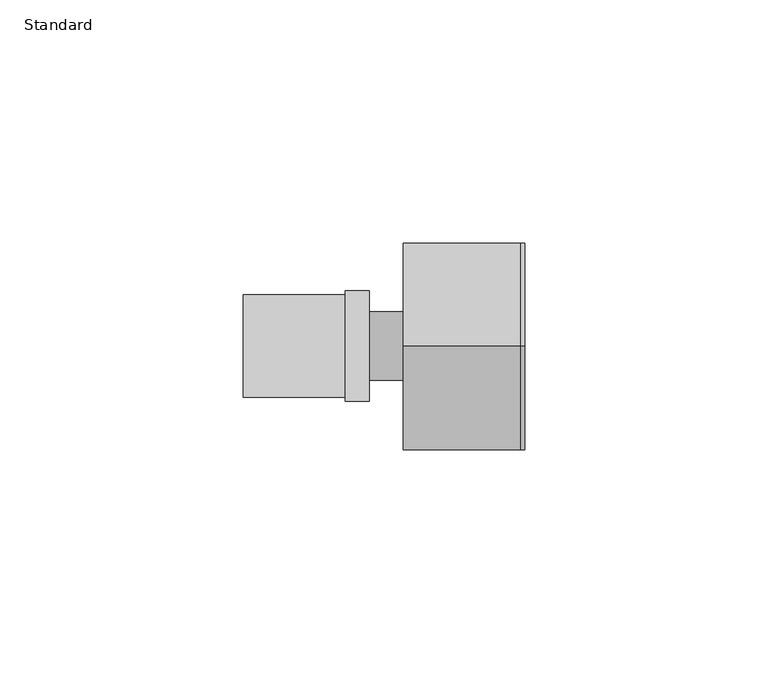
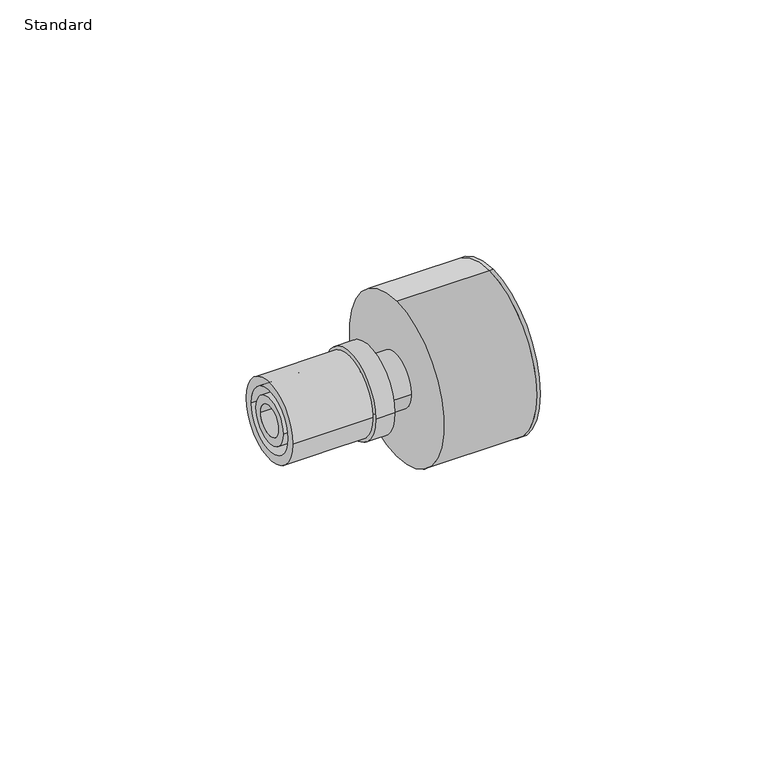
"""IFC4 building model written with IfcOpenShell, lengths in millimetres: pipe fitting geometry, Z_PIF_Tigris_Transition_M-K_FMT_Wavin_(nested) : Standard."""

from ifc_helpers import new_model, si_unit, point, frame, origin, origin_2d, place, context, project, spatial, circle_curve, trimmed, segment, composite_curve, outline, extrude, source, transform, mapped, element, save


def standard_260b12c7(model_context):
    return source(origin(), model_context, "Body", "SweptSolid", [
        extrude(outline(composite_curve([segment(trimmed(circle_curve(origin_2d(), 21.3), [point((0.0, -21.3))], [point((0.0, 21.3))], False, "CARTESIAN"), True, "CONTINUOUS"), segment(trimmed(circle_curve(origin_2d(), 21.3), [point((0.0, 21.3))], [point((0.0, -21.3))], False, "CARTESIAN"), True, "CONTINUOUS")], self_intersect=False)), frame((0.5, 0.0, 0.0), z_axis=(1.0, 0.0, 0.0), x_axis=(0.0, 1.0, 0.0)), (0.0, 0.0, 1.0), 24.0),
        extrude(outline(composite_curve([segment(trimmed(circle_curve(origin_2d(), 21.3), [point((0.0, -21.3))], [point((0.0, 21.3))], False, "CARTESIAN"), True, "CONTINUOUS"), segment(trimmed(circle_curve(origin_2d(), 21.3), [point((0.0, 21.3))], [point((0.0, -21.3))], False, "CARTESIAN"), True, "CONTINUOUS")], self_intersect=False)), frame((24.5, 0.0, 0.0), z_axis=(1.0, 0.0, 0.0), x_axis=(0.0, 1.0, 0.0)), (0.0, 0.0, 1.0), 1.0),
        extrude(outline(composite_curve([segment(trimmed(circle_curve(origin_2d(), 11.35), [point((-11.35, 0.0))], [point((11.35, 0.0))], False, "CARTESIAN"), True, "CONTINUOUS"), segment(trimmed(circle_curve(origin_2d(), 11.35), [point((11.35, 0.0))], [point((-11.35, 0.0))], False, "CARTESIAN"), True, "CONTINUOUS")], self_intersect=False)), frame((-11.5, 0.0, 0.0), z_axis=(1.0, 0.0, 0.0), x_axis=(0.0, 1.0, 0.0)), (0.0, 0.0, 1.0), 5.0),
        extrude(outline(composite_curve([segment(trimmed(circle_curve(origin_2d(), 10.5), [point((-10.5, 0.0))], [point((10.5, 0.0))], False, "CARTESIAN"), True, "CONTINUOUS"), segment(trimmed(circle_curve(origin_2d(), 10.5), [point((10.5, 0.0))], [point((-10.5, 0.0))], False, "CARTESIAN"), True, "CONTINUOUS")], self_intersect=False), holes=[composite_curve([segment(trimmed(circle_curve(origin_2d(), 8.2), [point((-8.2, 0.0))], [point((8.2, 0.0))], True, "CARTESIAN"), True, "CONTINUOUS"), segment(trimmed(circle_curve(origin_2d(), 8.2), [point((8.2, 0.0))], [point((-8.2, 0.0))], True, "CARTESIAN"), True, "CONTINUOUS")], self_intersect=False)]), frame((-32.5, 0.0, 0.0), z_axis=(1.0, 0.0, 0.0), x_axis=(0.0, 1.0, 0.0)), (0.0, 0.0, 1.0), 21.0),
        extrude(outline(composite_curve([segment(trimmed(circle_curve(origin_2d(), 6.1), [point((-6.1, 0.0))], [point((6.1, 0.0))], False, "CARTESIAN"), True, "CONTINUOUS"), segment(trimmed(circle_curve(origin_2d(), 6.1), [point((6.1, 0.0))], [point((-6.1, 0.0))], False, "CARTESIAN"), True, "CONTINUOUS")], self_intersect=False), holes=[composite_curve([segment(trimmed(circle_curve(origin_2d(), 4.0), [point((-4.0, 0.0))], [point((4.0, 0.0))], True, "CARTESIAN"), True, "CONTINUOUS"), segment(trimmed(circle_curve(origin_2d(), 4.0), [point((4.0, 0.0))], [point((-4.0, 0.0))], True, "CARTESIAN"), True, "CONTINUOUS")], self_intersect=False)]), frame((-32.5, 0.0, 0.0), z_axis=(1.0, 0.0, 0.0), x_axis=(0.0, 1.0, 0.0)), (0.0, 0.0, 1.0), 25.0),
        extrude(outline(composite_curve([segment(trimmed(circle_curve(origin_2d(), 7.0), [point((-7.0, 0.0))], [point((7.0, 0.0))], False, "CARTESIAN"), True, "CONTINUOUS"), segment(trimmed(circle_curve(origin_2d(), 7.0), [point((7.0, 0.0))], [point((-7.0, 0.0))], False, "CARTESIAN"), True, "CONTINUOUS")], self_intersect=False)), frame((-7.5, 0.0, 0.0), z_axis=(1.0, 0.0, 0.0), x_axis=(0.0, 1.0, 0.0)), (0.0, 0.0, 1.0), 15.0),
    ])


if __name__ == "__main__":
    model = new_model("IFC4")
    model_context = context("Model", 3, world=origin())
    ifc_project = project(units=[si_unit("LENGTHUNIT", "METRE", prefix="MILLI")], contexts=[model_context])
    site = spatial("IfcSite", under=ifc_project)
    building = spatial("IfcBuilding", under=site)
    placement = place(None, origin())
    standard_shape = standard_260b12c7(model_context)
    element("IfcPipeFitting", 1, ObjectType="Z_PIF_Tigris_Transition_M-K_FMT_Wavin_(nested) : Standard", at=placement, inside=building, context=model_context, shape_type="MappedRepresentation", body=[
        mapped(standard_shape, transform((0.0, 0.0, 0.0), x_axis=(1.0, 0.0, 0.0), y_axis=(0.0, 1.0, 0.0), z_axis=(0.0, 0.0, 1.0))),
    ])
    save(model, "model.ifc")
